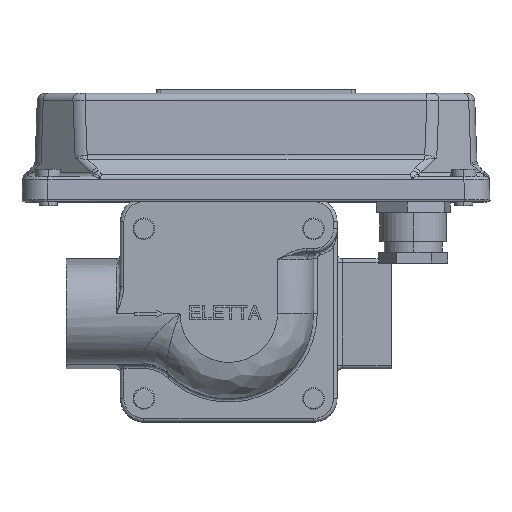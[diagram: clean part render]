
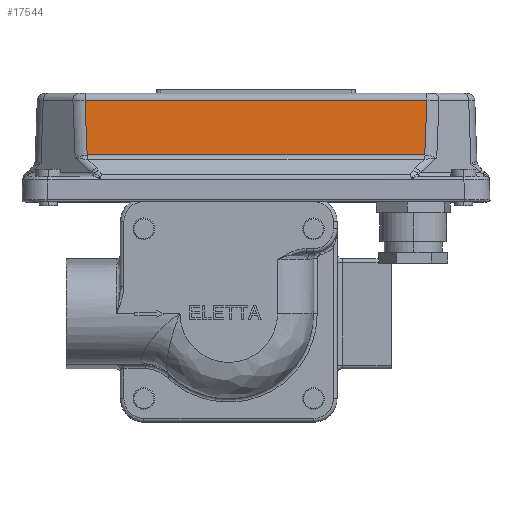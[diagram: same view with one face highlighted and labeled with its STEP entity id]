
A CAD part, top view. The second image highlights one B-rep face of the part: STEP entity #17544.
In plain terms, the highlighted planar face has unit normal (-0.001, 0.035, 0.999) as drawn and (0, 0.035, -0.999) by its records, which use the part's own axes.
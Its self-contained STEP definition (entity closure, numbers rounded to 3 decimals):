
#203 = VECTOR ( 'NONE', #36083, 1000. ) ;
#752 = CARTESIAN_POINT ( 'NONE',  ( 54.903, 61.07, -26.145 ) ) ;
#1281 = EDGE_CURVE ( 'NONE', #43610, #45985, #7326, .T. ) ;
#1891 = ORIENTED_EDGE ( 'NONE', *, *, #11098, .F. ) ;
#2057 = EDGE_LOOP ( 'NONE', ( #7149, #39072, #1891, #48430, #45090, #3915 ) ) ;
#3167 = DIRECTION ( 'NONE',  ( 0.039, 0.999, 0.035 ) ) ;
#3915 = ORIENTED_EDGE ( 'NONE', *, *, #22111, .F. ) ;
#4245 = AXIS2_PLACEMENT_3D ( 'NONE', #11714, #50121, #24459 ) ;
#7149 = ORIENTED_EDGE ( 'NONE', *, *, #20056, .F. ) ;
#7326 = LINE ( 'NONE', #40188, #15798 ) ;
#7447 = VECTOR ( 'NONE', #45953, 1000. ) ;
#7627 = VERTEX_POINT ( 'NONE', #43020 ) ;
#8439 = VERTEX_POINT ( 'NONE', #32165 ) ;
#11098 = EDGE_CURVE ( 'NONE', #45985, #51025, #22568, .T. ) ;
#11593 = DIRECTION ( 'NONE',  ( 1., 0.017, 0.001 ) ) ;
#11714 = CARTESIAN_POINT ( 'NONE',  ( -151.519, 55.221, -26.349 ) ) ;
#12471 = VECTOR ( 'NONE', #3167, 1000. ) ;
#15781 = CARTESIAN_POINT ( 'NONE',  ( -39.029, 45.942, -26.673 ) ) ;
#15798 = VECTOR ( 'NONE', #29077, 1000. ) ;
#17544 = ADVANCED_FACE ( 'NONE', ( #52234 ), #20158, .F. ) ;
#20006 = VECTOR ( 'NONE', #54555, 1000. ) ;
#20056 = EDGE_CURVE ( 'NONE', #7627, #8439, #44110, .T. ) ;
#20158 = PLANE ( 'NONE',  #4245 ) ;
#21371 = CARTESIAN_POINT ( 'NONE',  ( -39.175, 45.94, -26.673 ) ) ;
#22111 = EDGE_CURVE ( 'NONE', #8439, #48707, #51405, .T. ) ;
#22568 = LINE ( 'NONE', #35898, #203 ) ;
#23697 = LINE ( 'NONE', #54142, #12471 ) ;
#24459 = DIRECTION ( 'NONE',  ( 0., -0.999, -0.035 ) ) ;
#24799 = VECTOR ( 'NONE', #11593, 1000. ) ;
#29077 = DIRECTION ( 'NONE',  ( -1., 0., 0. ) ) ;
#29162 = EDGE_CURVE ( 'NONE', #48707, #43610, #23697, .T. ) ;
#32080 = CARTESIAN_POINT ( 'NONE',  ( -39.762, 61.07, -26.145 ) ) ;
#32165 = CARTESIAN_POINT ( 'NONE',  ( 54.17, 45.942, -26.673 ) ) ;
#33697 = EDGE_CURVE ( 'NONE', #51025, #7627, #47566, .T. ) ;
#35898 = CARTESIAN_POINT ( 'NONE',  ( -39.777, 61.459, -26.131 ) ) ;
#36083 = DIRECTION ( 'NONE',  ( 0.039, -0.999, -0.035 ) ) ;
#39072 = ORIENTED_EDGE ( 'NONE', *, *, #33697, .F. ) ;
#40188 = CARTESIAN_POINT ( 'NONE',  ( -71.974, 61.07, -26.145 ) ) ;
#43020 = CARTESIAN_POINT ( 'NONE',  ( -39.029, 45.942, -26.673 ) ) ;
#43354 = CARTESIAN_POINT ( 'NONE',  ( 54.316, 45.94, -26.673 ) ) ;
#43610 = VERTEX_POINT ( 'NONE', #752 ) ;
#44110 = LINE ( 'NONE', #50239, #20006 ) ;
#45090 = ORIENTED_EDGE ( 'NONE', *, *, #29162, .F. ) ;
#45953 = DIRECTION ( 'NONE',  ( 1., -0.017, -0.001 ) ) ;
#45985 = VERTEX_POINT ( 'NONE', #32080 ) ;
#47566 = LINE ( 'NONE', #15781, #24799 ) ;
#48430 = ORIENTED_EDGE ( 'NONE', *, *, #1281, .F. ) ;
#48707 = VERTEX_POINT ( 'NONE', #43354 ) ;
#50121 = DIRECTION ( 'NONE',  ( 0., -0.035, 0.999 ) ) ;
#50239 = CARTESIAN_POINT ( 'NONE',  ( -151.519, 45.942, -26.673 ) ) ;
#50290 = CARTESIAN_POINT ( 'NONE',  ( 54.316, 45.94, -26.673 ) ) ;
#51025 = VERTEX_POINT ( 'NONE', #21371 ) ;
#51405 = LINE ( 'NONE', #50290, #7447 ) ;
#52234 = FACE_OUTER_BOUND ( 'NONE', #2057, .T. ) ;
#54142 = CARTESIAN_POINT ( 'NONE',  ( 54.316, 45.94, -26.673 ) ) ;
#54555 = DIRECTION ( 'NONE',  ( 1., 0., 0. ) ) ;
